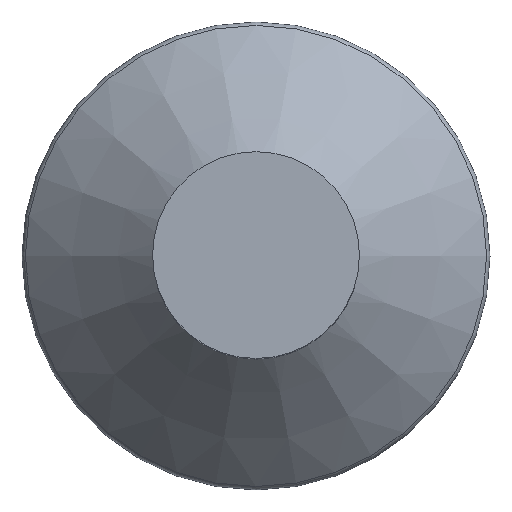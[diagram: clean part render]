
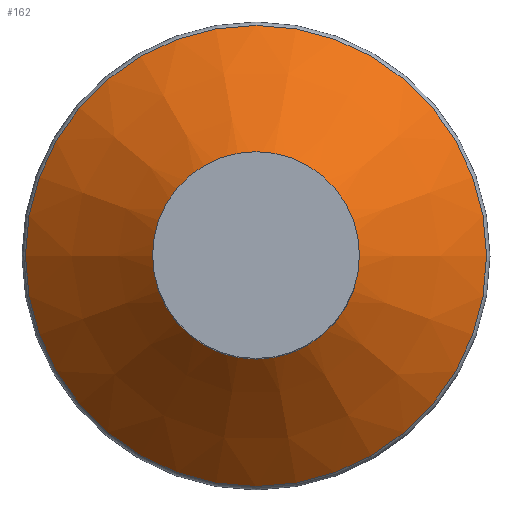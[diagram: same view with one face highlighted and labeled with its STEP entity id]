
A CAD part, top view. The second image highlights one B-rep face of the part: STEP entity #162.
In plain terms, the highlighted conical face has half-angle 45 degrees and reference radius 0.7 mm.
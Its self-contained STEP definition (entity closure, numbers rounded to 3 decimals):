
#61 = PLANE('',#62);
#62 = AXIS2_PLACEMENT_3D('',#63,#64,#65);
#63 = CARTESIAN_POINT('',(0.,0.,-1.2));
#64 = DIRECTION('',(0.,0.,1.));
#65 = DIRECTION('',(1.,0.,-0.));
#130 = EDGE_CURVE('',#131,#131,#133,.T.);
#131 = VERTEX_POINT('',#132);
#132 = CARTESIAN_POINT('',(0.7,0.,-1.2));
#133 = SURFACE_CURVE('',#134,(#139,#146),.PCURVE_S1.);
#134 = CIRCLE('',#135,0.7);
#135 = AXIS2_PLACEMENT_3D('',#136,#137,#138);
#136 = CARTESIAN_POINT('',(0.,0.,-1.2));
#137 = DIRECTION('',(0.,0.,1.));
#138 = DIRECTION('',(1.,0.,-0.));
#139 = PCURVE('',#61,#140);
#140 = DEFINITIONAL_REPRESENTATION('',(#141),#145);
#141 = CIRCLE('',#142,0.7);
#142 = AXIS2_PLACEMENT_2D('',#143,#144);
#143 = CARTESIAN_POINT('',(0.,0.));
#144 = DIRECTION('',(1.,0.));
#145 = ( GEOMETRIC_REPRESENTATION_CONTEXT(2) 
PARAMETRIC_REPRESENTATION_CONTEXT() REPRESENTATION_CONTEXT('2D SPACE',''
  ) );
#146 = PCURVE('',#147,#152);
#147 = CONICAL_SURFACE('',#148,0.7,0.785);
#148 = AXIS2_PLACEMENT_3D('',#149,#150,#151);
#149 = CARTESIAN_POINT('',(0.,0.,-1.2));
#150 = DIRECTION('',(0.,0.,1.));
#151 = DIRECTION('',(1.,0.,-0.));
#152 = DEFINITIONAL_REPRESENTATION('',(#153),#157);
#153 = LINE('',#154,#155);
#154 = CARTESIAN_POINT('',(0.,0.));
#155 = VECTOR('',#156,1.);
#156 = DIRECTION('',(1.,0.));
#157 = ( GEOMETRIC_REPRESENTATION_CONTEXT(2) 
PARAMETRIC_REPRESENTATION_CONTEXT() REPRESENTATION_CONTEXT('2D SPACE',''
  ) );
#162 = ADVANCED_FACE('',(#163),#147,.T.);
#163 = FACE_BOUND('',#164,.T.);
#164 = EDGE_LOOP('',(#165,#166,#189,#216));
#165 = ORIENTED_EDGE('',*,*,#130,.T.);
#166 = ORIENTED_EDGE('',*,*,#167,.T.);
#167 = EDGE_CURVE('',#131,#168,#170,.T.);
#168 = VERTEX_POINT('',#169);
#169 = CARTESIAN_POINT('',(1.746,0.,-0.154));
#170 = SEAM_CURVE('',#171,(#175,#182),.PCURVE_S1.);
#171 = LINE('',#172,#173);
#172 = CARTESIAN_POINT('',(0.7,0.,-1.2));
#173 = VECTOR('',#174,1.);
#174 = DIRECTION('',(0.707,0.,0.707));
#175 = PCURVE('',#147,#176);
#176 = DEFINITIONAL_REPRESENTATION('',(#177),#181);
#177 = LINE('',#178,#179);
#178 = CARTESIAN_POINT('',(0.,0.));
#179 = VECTOR('',#180,1.);
#180 = DIRECTION('',(0.,1.));
#181 = ( GEOMETRIC_REPRESENTATION_CONTEXT(2) 
PARAMETRIC_REPRESENTATION_CONTEXT() REPRESENTATION_CONTEXT('2D SPACE',''
  ) );
#182 = PCURVE('',#147,#183);
#183 = DEFINITIONAL_REPRESENTATION('',(#184),#188);
#184 = LINE('',#185,#186);
#185 = CARTESIAN_POINT('',(6.283,0.));
#186 = VECTOR('',#187,1.);
#187 = DIRECTION('',(0.,1.));
#188 = ( GEOMETRIC_REPRESENTATION_CONTEXT(2) 
PARAMETRIC_REPRESENTATION_CONTEXT() REPRESENTATION_CONTEXT('2D SPACE',''
  ) );
#189 = ORIENTED_EDGE('',*,*,#190,.F.);
#190 = EDGE_CURVE('',#168,#168,#191,.T.);
#191 = SURFACE_CURVE('',#192,(#197,#204),.PCURVE_S1.);
#192 = CIRCLE('',#193,1.746);
#193 = AXIS2_PLACEMENT_3D('',#194,#195,#196);
#194 = CARTESIAN_POINT('',(0.,0.,-0.154));
#195 = DIRECTION('',(0.,0.,1.));
#196 = DIRECTION('',(1.,0.,-0.));
#197 = PCURVE('',#147,#198);
#198 = DEFINITIONAL_REPRESENTATION('',(#199),#203);
#199 = LINE('',#200,#201);
#200 = CARTESIAN_POINT('',(0.,1.046));
#201 = VECTOR('',#202,1.);
#202 = DIRECTION('',(1.,0.));
#203 = ( GEOMETRIC_REPRESENTATION_CONTEXT(2) 
PARAMETRIC_REPRESENTATION_CONTEXT() REPRESENTATION_CONTEXT('2D SPACE',''
  ) );
#204 = PCURVE('',#205,#210);
#205 = TOROIDAL_SURFACE('',#206,1.683,0.09);
#206 = AXIS2_PLACEMENT_3D('',#207,#208,#209);
#207 = CARTESIAN_POINT('',(0.,0.,-0.09));
#208 = DIRECTION('',(-0.,-0.,-1.));
#209 = DIRECTION('',(1.,0.,-0.));
#210 = DEFINITIONAL_REPRESENTATION('',(#211),#215);
#211 = LINE('',#212,#213);
#212 = CARTESIAN_POINT('',(-0.,7.069));
#213 = VECTOR('',#214,1.);
#214 = DIRECTION('',(-1.,0.));
#215 = ( GEOMETRIC_REPRESENTATION_CONTEXT(2) 
PARAMETRIC_REPRESENTATION_CONTEXT() REPRESENTATION_CONTEXT('2D SPACE',''
  ) );
#216 = ORIENTED_EDGE('',*,*,#167,.F.);
